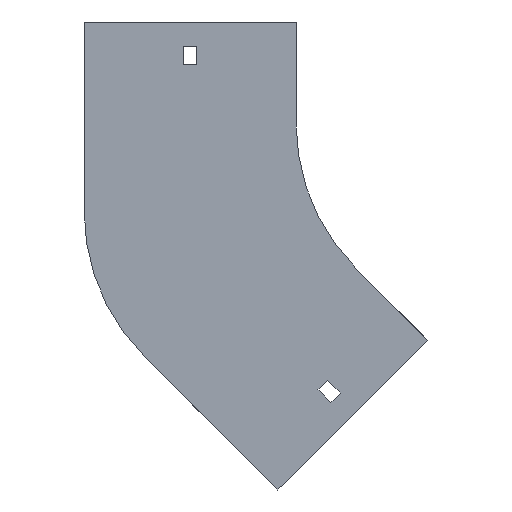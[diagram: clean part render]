
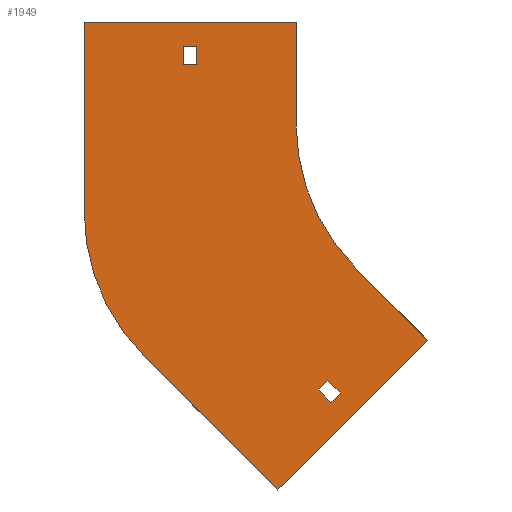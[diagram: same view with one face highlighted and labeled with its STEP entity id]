
A CAD part, front view. The second image highlights one B-rep face of the part: STEP entity #1949.
In plain terms, the highlighted planar face has unit normal (0, -1, 0).
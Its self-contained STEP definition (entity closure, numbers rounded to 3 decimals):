
#1 = VECTOR ( 'NONE', #866, 1000. ) ;
#11 = PLANE ( 'NONE',  #1551 ) ;
#14 = DIRECTION ( 'NONE',  ( -0.707, 0., 0.707 ) ) ;
#45 = CARTESIAN_POINT ( 'NONE',  ( -100., 0., 50. ) ) ;
#46 = VERTEX_POINT ( 'NONE', #1159 ) ;
#67 = ORIENTED_EDGE ( 'NONE', *, *, #350, .F. ) ;
#79 = ORIENTED_EDGE ( 'NONE', *, *, #1011, .F. ) ;
#88 = ORIENTED_EDGE ( 'NONE', *, *, #1680, .F. ) ;
#106 = VERTEX_POINT ( 'NONE', #1271 ) ;
#109 = DIRECTION ( 'NONE',  ( 0., 1., 0. ) ) ;
#115 = VECTOR ( 'NONE', #1385, 1000. ) ;
#120 = VERTEX_POINT ( 'NONE', #1782 ) ;
#146 = EDGE_CURVE ( 'NONE', #106, #482, #1485, .T. ) ;
#151 = DIRECTION ( 'NONE',  ( 0., -1., 0. ) ) ;
#153 = CARTESIAN_POINT ( 'NONE',  ( -84.676, 0., -125.688 ) ) ;
#165 = CARTESIAN_POINT ( 'NONE',  ( 0., 0., 0. ) ) ;
#172 = EDGE_CURVE ( 'NONE', #1640, #106, #886, .T. ) ;
#179 = ORIENTED_EDGE ( 'NONE', *, *, #259, .F. ) ;
#195 = DIRECTION ( 'NONE',  ( 0., 0., -1. ) ) ;
#208 = EDGE_CURVE ( 'NONE', #1293, #1741, #1929, .T. ) ;
#224 = ORIENTED_EDGE ( 'NONE', *, *, #1453, .F. ) ;
#257 = DIRECTION ( 'NONE',  ( 0., 0., 1. ) ) ;
#259 = EDGE_CURVE ( 'NONE', #1741, #1411, #628, .T. ) ;
#269 = LINE ( 'NONE', #412, #556 ) ;
#294 = AXIS2_PLACEMENT_3D ( 'NONE', #400, #109, #257 ) ;
#302 = EDGE_LOOP ( 'NONE', ( #79, #1879, #179, #1462 ) ) ;
#314 = LINE ( 'NONE', #744, #1696 ) ;
#325 = CARTESIAN_POINT ( 'NONE',  ( -204., 0., 50. ) ) ;
#337 = ORIENTED_EDGE ( 'NONE', *, *, #1136, .T. ) ;
#339 = VECTOR ( 'NONE', #14, 1000. ) ;
#347 = LINE ( 'NONE', #1074, #115 ) ;
#350 = EDGE_CURVE ( 'NONE', #360, #1062, #347, .T. ) ;
#360 = VERTEX_POINT ( 'NONE', #45 ) ;
#368 = VERTEX_POINT ( 'NONE', #946 ) ;
#371 = VECTOR ( 'NONE', #1474, 1000. ) ;
#400 = CARTESIAN_POINT ( 'NONE',  ( -104., 0., -43.078 ) ) ;
#401 = LINE ( 'NONE', #1002, #1132 ) ;
#412 = CARTESIAN_POINT ( 'NONE',  ( -155.25, 0., 38. ) ) ;
#443 = LINE ( 'NONE', #1041, #1061 ) ;
#469 = CARTESIAN_POINT ( 'NONE',  ( -70.711, 0., -70.711 ) ) ;
#482 = VERTEX_POINT ( 'NONE', #921 ) ;
#509 = DIRECTION ( 'NONE',  ( -0.707, 0., -0.707 ) ) ;
#532 = DIRECTION ( 'NONE',  ( 0.707, 0., -0.707 ) ) ;
#556 = VECTOR ( 'NONE', #1010, 1000. ) ;
#580 = CARTESIAN_POINT ( 'NONE',  ( -89.272, 0., -130.284 ) ) ;
#581 = VERTEX_POINT ( 'NONE', #781 ) ;
#586 = DIRECTION ( 'NONE',  ( 0., 0., -1. ) ) ;
#589 = CIRCLE ( 'NONE', #1794, 100. ) ;
#595 = CARTESIAN_POINT ( 'NONE',  ( -204., 0., 50. ) ) ;
#628 = LINE ( 'NONE', #917, #1099 ) ;
#654 = DIRECTION ( 'NONE',  ( 0.707, 0., 0.707 ) ) ;
#675 = CARTESIAN_POINT ( 'NONE',  ( -35.355, 0., -106.066 ) ) ;
#744 = CARTESIAN_POINT ( 'NONE',  ( -148.75, 0., 29. ) ) ;
#766 = ORIENTED_EDGE ( 'NONE', *, *, #1344, .F. ) ;
#768 = FACE_OUTER_BOUND ( 'NONE', #1073, .T. ) ;
#770 = LINE ( 'NONE', #992, #1726 ) ;
#779 = EDGE_CURVE ( 'NONE', #1288, #1762, #1743, .T. ) ;
#781 = CARTESIAN_POINT ( 'NONE',  ( -108.894, 0., -179.605 ) ) ;
#783 = LINE ( 'NONE', #675, #1395 ) ;
#787 = ORIENTED_EDGE ( 'NONE', *, *, #779, .F. ) ;
#845 = ORIENTED_EDGE ( 'NONE', *, *, #1283, .F. ) ;
#864 = EDGE_LOOP ( 'NONE', ( #1689, #337, #1922, #936 ) ) ;
#866 = DIRECTION ( 'NONE',  ( -0.707, 0., 0.707 ) ) ;
#873 = CARTESIAN_POINT ( 'NONE',  ( -204., 0., -43.078 ) ) ;
#886 = LINE ( 'NONE', #1802, #1028 ) ;
#915 = CARTESIAN_POINT ( 'NONE',  ( -108.894, 0., -179.605 ) ) ;
#917 = CARTESIAN_POINT ( 'NONE',  ( -89.272, 0., -130.284 ) ) ;
#921 = CARTESIAN_POINT ( 'NONE',  ( -155.25, 0., 38. ) ) ;
#922 = DIRECTION ( 'NONE',  ( 1., 0., 0. ) ) ;
#936 = ORIENTED_EDGE ( 'NONE', *, *, #172, .T. ) ;
#946 = CARTESIAN_POINT ( 'NONE',  ( -35.355, 0., -106.066 ) ) ;
#969 = VECTOR ( 'NONE', #654, 1000. ) ;
#992 = CARTESIAN_POINT ( 'NONE',  ( -70.711, 0., -70.711 ) ) ;
#1002 = CARTESIAN_POINT ( 'NONE',  ( -89.272, 0., -130.284 ) ) ;
#1010 = DIRECTION ( 'NONE',  ( 1., 0., 0. ) ) ;
#1011 = EDGE_CURVE ( 'NONE', #46, #1293, #1674, .T. ) ;
#1026 = VERTEX_POINT ( 'NONE', #325 ) ;
#1028 = VECTOR ( 'NONE', #1035, 1000. ) ;
#1035 = DIRECTION ( 'NONE',  ( -1., 0., 0. ) ) ;
#1041 = CARTESIAN_POINT ( 'NONE',  ( -204., 0., -43.078 ) ) ;
#1052 = CARTESIAN_POINT ( 'NONE',  ( 0., 0., 0. ) ) ;
#1061 = VECTOR ( 'NONE', #1078, 1000. ) ;
#1062 = VERTEX_POINT ( 'NONE', #1113 ) ;
#1073 = EDGE_LOOP ( 'NONE', ( #1289, #224, #787, #845, #88, #1095, #766, #67 ) ) ;
#1074 = CARTESIAN_POINT ( 'NONE',  ( -100., 0., 50. ) ) ;
#1078 = DIRECTION ( 'NONE',  ( 0., 0., 1. ) ) ;
#1093 = EDGE_CURVE ( 'NONE', #1483, #368, #770, .T. ) ;
#1095 = ORIENTED_EDGE ( 'NONE', *, *, #1093, .F. ) ;
#1099 = VECTOR ( 'NONE', #1849, 1000. ) ;
#1113 = CARTESIAN_POINT ( 'NONE',  ( -100., 0., 0. ) ) ;
#1132 = VECTOR ( 'NONE', #1604, 1000. ) ;
#1136 = EDGE_CURVE ( 'NONE', #482, #120, #269, .T. ) ;
#1159 = CARTESIAN_POINT ( 'NONE',  ( -82.908, 0., -136.648 ) ) ;
#1165 = EDGE_CURVE ( 'NONE', #1411, #46, #401, .T. ) ;
#1196 = CARTESIAN_POINT ( 'NONE',  ( -174.711, 0., -113.789 ) ) ;
#1206 = CARTESIAN_POINT ( 'NONE',  ( -78.312, 0., -132.052 ) ) ;
#1271 = CARTESIAN_POINT ( 'NONE',  ( -155.25, 0., 29. ) ) ;
#1283 = EDGE_CURVE ( 'NONE', #581, #1288, #1500, .T. ) ;
#1288 = VERTEX_POINT ( 'NONE', #1196 ) ;
#1289 = ORIENTED_EDGE ( 'NONE', *, *, #1901, .F. ) ;
#1293 = VERTEX_POINT ( 'NONE', #1206 ) ;
#1344 = EDGE_CURVE ( 'NONE', #1062, #1483, #589, .T. ) ;
#1361 = FACE_BOUND ( 'NONE', #302, .T. ) ;
#1385 = DIRECTION ( 'NONE',  ( 0., 0., -1. ) ) ;
#1390 = CARTESIAN_POINT ( 'NONE',  ( -148.75, 0., 29. ) ) ;
#1395 = VECTOR ( 'NONE', #509, 1000. ) ;
#1411 = VERTEX_POINT ( 'NONE', #580 ) ;
#1422 = EDGE_CURVE ( 'NONE', #120, #1640, #314, .T. ) ;
#1453 = EDGE_CURVE ( 'NONE', #1762, #1026, #443, .T. ) ;
#1462 = ORIENTED_EDGE ( 'NONE', *, *, #208, .F. ) ;
#1474 = DIRECTION ( 'NONE',  ( 0., 0., 1. ) ) ;
#1476 = CARTESIAN_POINT ( 'NONE',  ( -84.676, 0., -125.688 ) ) ;
#1483 = VERTEX_POINT ( 'NONE', #469 ) ;
#1485 = LINE ( 'NONE', #1618, #371 ) ;
#1500 = LINE ( 'NONE', #915, #339 ) ;
#1546 = DIRECTION ( 'NONE',  ( 0., -1., 0. ) ) ;
#1548 = CARTESIAN_POINT ( 'NONE',  ( -82.908, 0., -136.648 ) ) ;
#1551 = AXIS2_PLACEMENT_3D ( 'NONE', #165, #1546, #195 ) ;
#1604 = DIRECTION ( 'NONE',  ( 0.707, 0., -0.707 ) ) ;
#1618 = CARTESIAN_POINT ( 'NONE',  ( -155.25, 0., 29. ) ) ;
#1640 = VERTEX_POINT ( 'NONE', #1390 ) ;
#1644 = VECTOR ( 'NONE', #922, 1000. ) ;
#1674 = LINE ( 'NONE', #1548, #969 ) ;
#1680 = EDGE_CURVE ( 'NONE', #368, #581, #783, .T. ) ;
#1689 = ORIENTED_EDGE ( 'NONE', *, *, #146, .T. ) ;
#1692 = LINE ( 'NONE', #595, #1644 ) ;
#1696 = VECTOR ( 'NONE', #586, 1000. ) ;
#1726 = VECTOR ( 'NONE', #532, 1000. ) ;
#1741 = VERTEX_POINT ( 'NONE', #1476 ) ;
#1743 = CIRCLE ( 'NONE', #294, 100. ) ;
#1762 = VERTEX_POINT ( 'NONE', #873 ) ;
#1782 = CARTESIAN_POINT ( 'NONE',  ( -148.75, 0., 38. ) ) ;
#1794 = AXIS2_PLACEMENT_3D ( 'NONE', #1052, #151, #1811 ) ;
#1802 = CARTESIAN_POINT ( 'NONE',  ( -155.25, 0., 29. ) ) ;
#1807 = FACE_BOUND ( 'NONE', #864, .T. ) ;
#1811 = DIRECTION ( 'NONE',  ( 0., 0., -1. ) ) ;
#1849 = DIRECTION ( 'NONE',  ( -0.707, 0., -0.707 ) ) ;
#1879 = ORIENTED_EDGE ( 'NONE', *, *, #1165, .F. ) ;
#1901 = EDGE_CURVE ( 'NONE', #1026, #360, #1692, .T. ) ;
#1922 = ORIENTED_EDGE ( 'NONE', *, *, #1422, .T. ) ;
#1929 = LINE ( 'NONE', #153, #1 ) ;
#1949 = ADVANCED_FACE ( 'NONE', ( #1807, #768, #1361 ), #11, .T. ) ;
